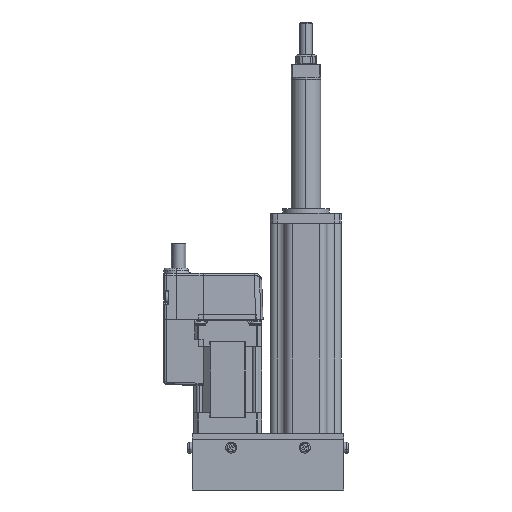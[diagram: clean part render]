
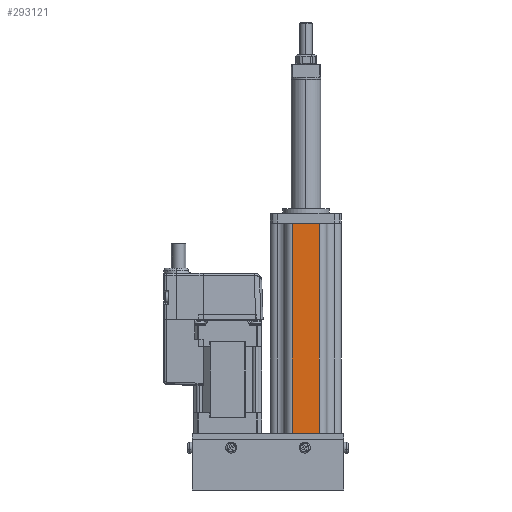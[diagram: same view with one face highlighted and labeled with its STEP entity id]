
A CAD part, front view. The second image highlights one B-rep face of the part: STEP entity #293121.
In plain terms, the highlighted planar face has unit normal (0, -1, 0).
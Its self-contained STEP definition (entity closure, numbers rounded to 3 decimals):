
#291230 = VERTEX_POINT('',#291231);
#291231 = CARTESIAN_POINT('',(155.5,-64.5,75.761));
#291246 = CYLINDRICAL_SURFACE('',#291247,3.);
#291247 = AXIS2_PLACEMENT_3D('',#291248,#291249,#291250);
#291248 = CARTESIAN_POINT('',(155.5,-61.5,57.761));
#291249 = DIRECTION('',(0.,0.,-1.));
#291250 = DIRECTION('',(0.,-1.,0.));
#291297 = PLANE('',#291298);
#291298 = AXIS2_PLACEMENT_3D('',#291299,#291300,#291301);
#291299 = CARTESIAN_POINT('',(150.,-64.4,75.881));
#291300 = DIRECTION('',(0.,-0.766,
    0.642));
#291301 = DIRECTION('',(0.,0.642,0.766
    ));
#291512 = VERTEX_POINT('',#291513);
#291513 = CARTESIAN_POINT('',(144.5,-64.5,75.761));
#291528 = CYLINDRICAL_SURFACE('',#291529,3.);
#291529 = AXIS2_PLACEMENT_3D('',#291530,#291531,#291532);
#291530 = CARTESIAN_POINT('',(144.5,-61.5,-9.761));
#291531 = DIRECTION('',(0.,0.,1.));
#291532 = DIRECTION('',(0.,-1.,0.));
#292472 = EDGE_CURVE('',#291512,#291230,#292473,.T.);
#292473 = SURFACE_CURVE('',#292474,(#292478,#292485),.PCURVE_S1.);
#292474 = LINE('',#292475,#292476);
#292475 = CARTESIAN_POINT('',(150.,-64.5,75.761));
#292476 = VECTOR('',#292477,1.);
#292477 = DIRECTION('',(1.,0.,-0.));
#292478 = PCURVE('',#291297,#292479);
#292479 = DEFINITIONAL_REPRESENTATION('',(#292480),#292484);
#292480 = LINE('',#292481,#292482);
#292481 = CARTESIAN_POINT('',(-0.156,0.));
#292482 = VECTOR('',#292483,1.);
#292483 = DIRECTION('',(0.,-1.));
#292484 = ( GEOMETRIC_REPRESENTATION_CONTEXT(2) 
PARAMETRIC_REPRESENTATION_CONTEXT() REPRESENTATION_CONTEXT('2D SPACE',''
  ) );
#292485 = PCURVE('',#292486,#292491);
#292486 = PLANE('',#292487);
#292487 = AXIS2_PLACEMENT_3D('',#292488,#292489,#292490);
#292488 = CARTESIAN_POINT('',(150.,-64.5,26.386));
#292489 = DIRECTION('',(0.,1.,0.));
#292490 = DIRECTION('',(-1.,0.,0.));
#292491 = DEFINITIONAL_REPRESENTATION('',(#292492),#292496);
#292492 = LINE('',#292493,#292494);
#292493 = CARTESIAN_POINT('',(0.,49.375));
#292494 = VECTOR('',#292495,1.);
#292495 = DIRECTION('',(-1.,0.));
#292496 = ( GEOMETRIC_REPRESENTATION_CONTEXT(2) 
PARAMETRIC_REPRESENTATION_CONTEXT() REPRESENTATION_CONTEXT('2D SPACE',''
  ) );
#293072 = EDGE_CURVE('',#291230,#293073,#293075,.T.);
#293073 = VERTEX_POINT('',#293074);
#293074 = CARTESIAN_POINT('',(155.5,-64.5,-9.761));
#293075 = SURFACE_CURVE('',#293076,(#293080,#293087),.PCURVE_S1.);
#293076 = LINE('',#293077,#293078);
#293077 = CARTESIAN_POINT('',(155.5,-64.5,28.474));
#293078 = VECTOR('',#293079,1.);
#293079 = DIRECTION('',(0.,0.,-1.));
#293080 = PCURVE('',#291246,#293081);
#293081 = DEFINITIONAL_REPRESENTATION('',(#293082),#293086);
#293082 = LINE('',#293083,#293084);
#293083 = CARTESIAN_POINT('',(6.283,29.288));
#293084 = VECTOR('',#293085,1.);
#293085 = DIRECTION('',(0.,1.));
#293086 = ( GEOMETRIC_REPRESENTATION_CONTEXT(2) 
PARAMETRIC_REPRESENTATION_CONTEXT() REPRESENTATION_CONTEXT('2D SPACE',''
  ) );
#293087 = PCURVE('',#292486,#293088);
#293088 = DEFINITIONAL_REPRESENTATION('',(#293089),#293093);
#293089 = LINE('',#293090,#293091);
#293090 = CARTESIAN_POINT('',(-5.5,2.088));
#293091 = VECTOR('',#293092,1.);
#293092 = DIRECTION('',(0.,-1.));
#293093 = ( GEOMETRIC_REPRESENTATION_CONTEXT(2) 
PARAMETRIC_REPRESENTATION_CONTEXT() REPRESENTATION_CONTEXT('2D SPACE',''
  ) );
#293121 = ADVANCED_FACE('',(#293122),#292486,.F.);
#293122 = FACE_BOUND('',#293123,.T.);
#293123 = EDGE_LOOP('',(#293124,#293125,#293126,#293149));
#293124 = ORIENTED_EDGE('',*,*,#293072,.F.);
#293125 = ORIENTED_EDGE('',*,*,#292472,.F.);
#293126 = ORIENTED_EDGE('',*,*,#293127,.F.);
#293127 = EDGE_CURVE('',#293128,#291512,#293130,.T.);
#293128 = VERTEX_POINT('',#293129);
#293129 = CARTESIAN_POINT('',(144.5,-64.5,-9.761));
#293130 = SURFACE_CURVE('',#293131,(#293135,#293142),.PCURVE_S1.);
#293131 = LINE('',#293132,#293133);
#293132 = CARTESIAN_POINT('',(144.5,-64.5,4.614));
#293133 = VECTOR('',#293134,1.);
#293134 = DIRECTION('',(0.,0.,1.));
#293135 = PCURVE('',#292486,#293136);
#293136 = DEFINITIONAL_REPRESENTATION('',(#293137),#293141);
#293137 = LINE('',#293138,#293139);
#293138 = CARTESIAN_POINT('',(5.5,-21.772));
#293139 = VECTOR('',#293140,1.);
#293140 = DIRECTION('',(0.,1.));
#293141 = ( GEOMETRIC_REPRESENTATION_CONTEXT(2) 
PARAMETRIC_REPRESENTATION_CONTEXT() REPRESENTATION_CONTEXT('2D SPACE',''
  ) );
#293142 = PCURVE('',#291528,#293143);
#293143 = DEFINITIONAL_REPRESENTATION('',(#293144),#293148);
#293144 = LINE('',#293145,#293146);
#293145 = CARTESIAN_POINT('',(6.283,14.375));
#293146 = VECTOR('',#293147,1.);
#293147 = DIRECTION('',(0.,1.));
#293148 = ( GEOMETRIC_REPRESENTATION_CONTEXT(2) 
PARAMETRIC_REPRESENTATION_CONTEXT() REPRESENTATION_CONTEXT('2D SPACE',''
  ) );
#293149 = ORIENTED_EDGE('',*,*,#293150,.F.);
#293150 = EDGE_CURVE('',#293073,#293128,#293151,.T.);
#293151 = SURFACE_CURVE('',#293152,(#293156,#293163),.PCURVE_S1.);
#293152 = LINE('',#293153,#293154);
#293153 = CARTESIAN_POINT('',(150.,-64.5,-9.761));
#293154 = VECTOR('',#293155,1.);
#293155 = DIRECTION('',(-1.,0.,0.));
#293156 = PCURVE('',#292486,#293157);
#293157 = DEFINITIONAL_REPRESENTATION('',(#293158),#293162);
#293158 = LINE('',#293159,#293160);
#293159 = CARTESIAN_POINT('',(0.,-36.147));
#293160 = VECTOR('',#293161,1.);
#293161 = DIRECTION('',(1.,0.));
#293162 = ( GEOMETRIC_REPRESENTATION_CONTEXT(2) 
PARAMETRIC_REPRESENTATION_CONTEXT() REPRESENTATION_CONTEXT('2D SPACE',''
  ) );
#293163 = PCURVE('',#293164,#293169);
#293164 = PLANE('',#293165);
#293165 = AXIS2_PLACEMENT_3D('',#293166,#293167,#293168);
#293166 = CARTESIAN_POINT('',(150.,-64.4,-9.881));
#293167 = DIRECTION('',(0.,-0.766,
    -0.642));
#293168 = DIRECTION('',(1.,0.,0.));
#293169 = DEFINITIONAL_REPRESENTATION('',(#293170),#293174);
#293170 = LINE('',#293171,#293172);
#293171 = CARTESIAN_POINT('',(0.,0.156));
#293172 = VECTOR('',#293173,1.);
#293173 = DIRECTION('',(-1.,0.));
#293174 = ( GEOMETRIC_REPRESENTATION_CONTEXT(2) 
PARAMETRIC_REPRESENTATION_CONTEXT() REPRESENTATION_CONTEXT('2D SPACE',''
  ) );
